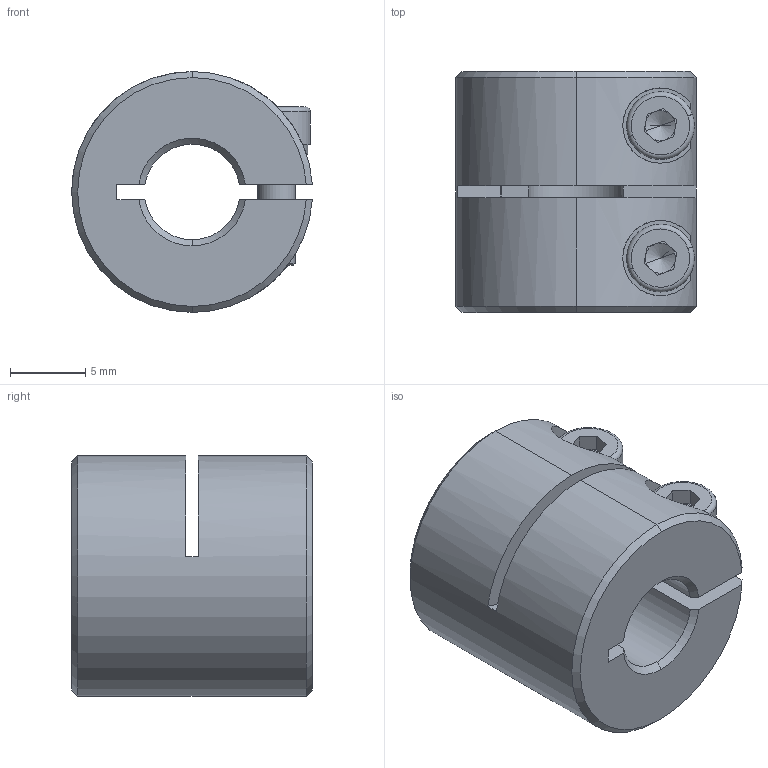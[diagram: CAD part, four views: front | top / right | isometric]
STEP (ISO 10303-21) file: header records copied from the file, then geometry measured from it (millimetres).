
FILE_DESCRIPTION (( 'STEP AP203' ), '1' );
FILE_NAME ('LL-B-D16L16-6.35-6.35.STEP', '2021-11-03T02:48:54', ( '' ), ( '' ), 'SwSTEP 2.0', 'SolidWorks 2018', '' );
FILE_SCHEMA (( 'CONFIG_CONTROL_DESIGN' ));
Length unit declared in the file: millimetre
Products named in the file (1): LL-B-D16L16-6.35-6.35
Bounding box: 15.98 x 16 x 16 mm (x, y, z)
Volume: 2496.4 mm3; surface area: 2001.1 mm2
Topology: 1 solids, 1 shells, 116 faces, 299 edges, 187 vertices
Faces by surface type: plane 50, cylinder 42, cone 20, torus 4
Entity records: 3787 total; most frequent: CARTESIAN_POINT 851, DIRECTION 624, ORIENTED_EDGE 590, EDGE_CURVE 295, AXIS2_PLACEMENT_3D 244, VERTEX_POINT 187, VECTOR 136, LINE 136
